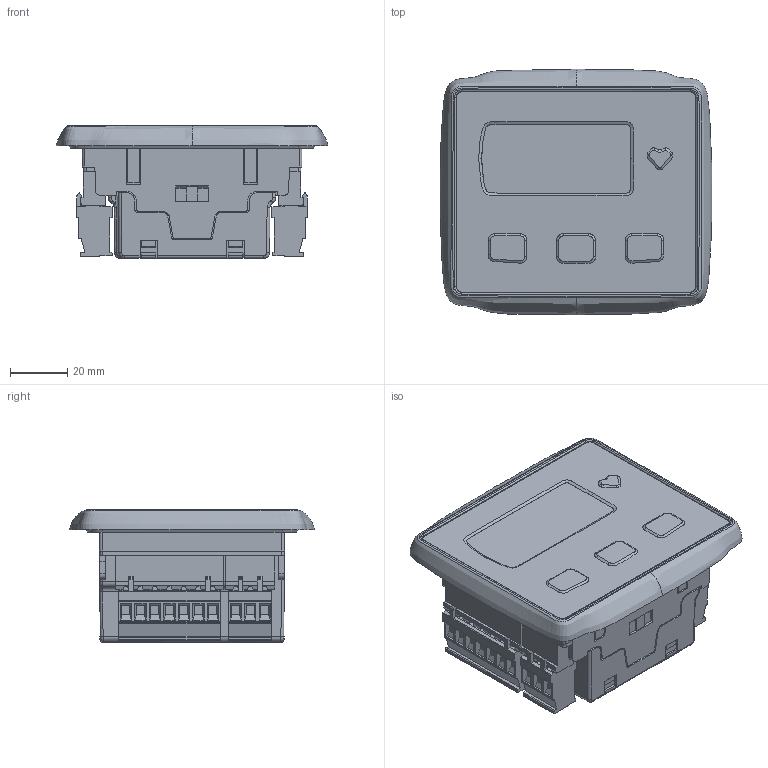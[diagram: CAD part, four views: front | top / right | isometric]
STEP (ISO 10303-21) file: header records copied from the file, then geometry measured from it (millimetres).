
FILE_DESCRIPTION (( 'STEP AP203' ), '1' );
FILE_NAME ('HGM1791LT WZ.STEP', '2025-08-12T05:17:45', ( 'aoc' ), ( '' ), 'SwSTEP 2.0', 'SolidWorks 2024', '' );
FILE_SCHEMA (( 'CONFIG_CONTROL_DESIGN' ));
Length unit declared in the file: millimetre
Products named in the file (1): HGM1791LT WZ
Bounding box: 95.26 x 85.99 x 46.51 mm (x, y, z)
Volume: 232647.2 mm3; surface area: 50072.4 mm2
Topology: 7 solids, 7 shells, 2256 faces, 5779 edges, 3712 vertices
Faces by surface type: plane 1674, cylinder 443, bspline 99, cone 40
Entity records: 93816 total; most frequent: CARTESIAN_POINT 39137, ORIENTED_EDGE 11556, DIRECTION 10946, EDGE_CURVE 5778, VECTOR 4218, LINE 4218, VERTEX_POINT 3712, AXIS2_PLACEMENT_3D 3364
